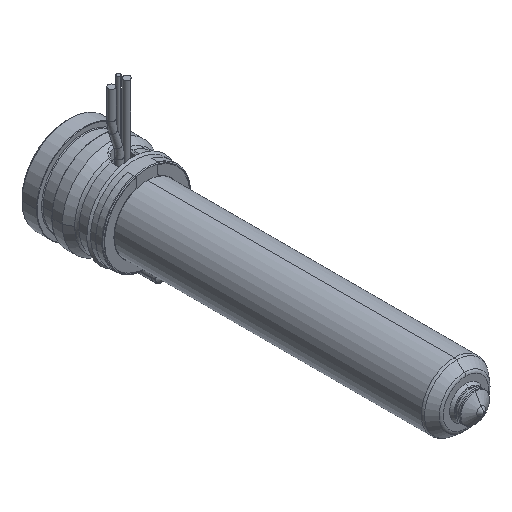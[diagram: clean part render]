
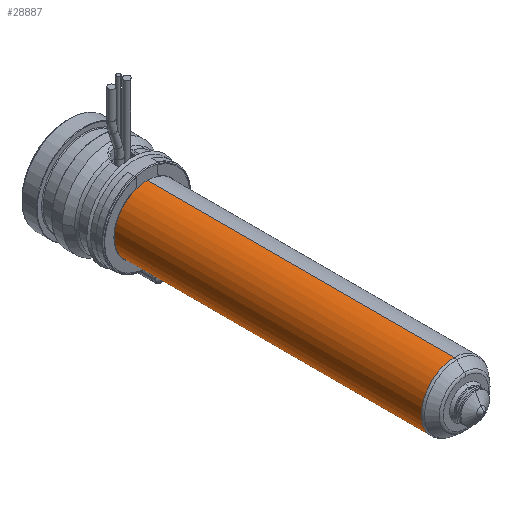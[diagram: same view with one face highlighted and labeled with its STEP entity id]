
A CAD part, isometric view. The second image highlights one B-rep face of the part: STEP entity #28887.
In plain terms, the highlighted cylindrical face has radius 9 mm (diameter 18 mm), a partial arc.
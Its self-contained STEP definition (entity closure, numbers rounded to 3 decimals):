
#28289=CARTESIAN_POINT('',(0.,-105.836,0.));
#28290=DIRECTION('',(0.,-1.,0.));
#28291=DIRECTION('',(0.,0.,1.));
#28292=AXIS2_PLACEMENT_3D('',#28289,#28290,#28291);
#28294=CARTESIAN_POINT('',(0.,-22.,0.));
#28295=DIRECTION('',(0.,1.,0.));
#28296=DIRECTION('',(0.,0.,-1.));
#28297=AXIS2_PLACEMENT_3D('',#28294,#28295,#28296);
#28299=DIRECTION('',(0.,1.,0.));
#28300=VECTOR('',#28299,83.836);
#28301=CARTESIAN_POINT('',(0.,-105.836,9.));
#28302=LINE('',#28301,#28300);
#28308=DIRECTION('',(0.,1.,0.));
#28309=VECTOR('',#28308,83.836);
#28310=CARTESIAN_POINT('',(0.,-105.836,-9.));
#28311=LINE('',#28310,#28309);
#28430=CARTESIAN_POINT('',(0.,-105.836,9.));
#28431=CARTESIAN_POINT('',(0.,-22.,9.));
#28432=VERTEX_POINT('',#28430);
#28433=VERTEX_POINT('',#28431);
#28434=CARTESIAN_POINT('',(0.,-105.836,-9.));
#28435=CARTESIAN_POINT('',(0.,-22.,-9.));
#28436=VERTEX_POINT('',#28434);
#28437=VERTEX_POINT('',#28435);
#28873=CARTESIAN_POINT('',(0.,-13.2,0.));
#28874=DIRECTION('',(0.,-1.,0.));
#28875=DIRECTION('',(0.,0.,1.));
#28876=AXIS2_PLACEMENT_3D('',#28873,#28874,#28875);
#28877=CYLINDRICAL_SURFACE('',#28876,9.);
#28879=ORIENTED_EDGE('',*,*,#28878,.F.);
#28880=ORIENTED_EDGE('',*,*,#28861,.T.);
#28882=ORIENTED_EDGE('',*,*,#28881,.T.);
#28884=ORIENTED_EDGE('',*,*,#28883,.T.);
#28885=EDGE_LOOP('',(#28879,#28880,#28882,#28884));
#28886=FACE_OUTER_BOUND('',#28885,.F.);
#28887=ADVANCED_FACE('',(#28886),#28877,.T.);
#28293=CIRCLE('',#28292,9.);
#28298=CIRCLE('',#28297,9.);
#28861=EDGE_CURVE('',#28432,#28436,#28293,.T.);
#28878=EDGE_CURVE('',#28432,#28433,#28302,.T.);
#28881=EDGE_CURVE('',#28436,#28437,#28311,.T.);
#28883=EDGE_CURVE('',#28437,#28433,#28298,.T.);
